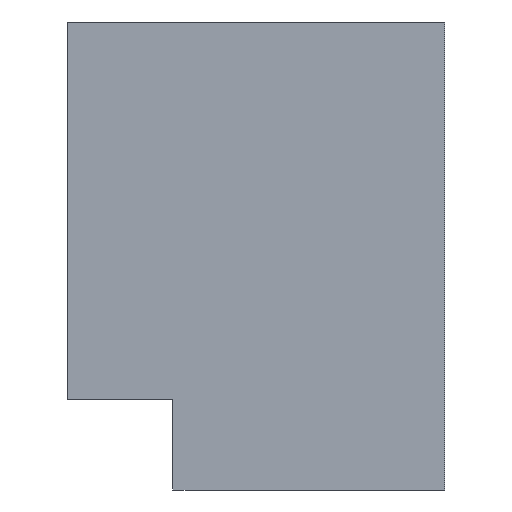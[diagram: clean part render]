
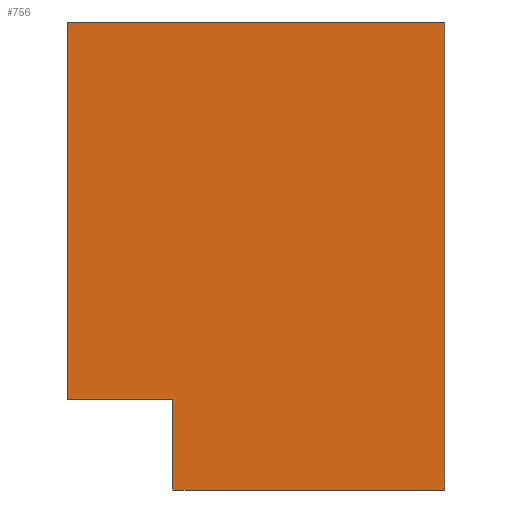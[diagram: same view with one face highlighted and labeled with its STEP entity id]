
A CAD part, left-side view. The second image highlights one B-rep face of the part: STEP entity #756.
In plain terms, the highlighted planar face has unit normal (1, 0, 0).
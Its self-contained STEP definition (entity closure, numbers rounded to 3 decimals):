
#701=CARTESIAN_POINT('Axis2P3D Location',(-62.5,0.,0.)) ;
#706=CARTESIAN_POINT('Line Origine',(-62.5,5.5,-28.)) ;
#710=CARTESIAN_POINT('Vertex',(-62.5,5.5,-31.)) ;
#712=CARTESIAN_POINT('Vertex',(-62.5,5.5,-25.)) ;
#715=CARTESIAN_POINT('Line Origine',(-62.5,9.,-25.)) ;
#719=CARTESIAN_POINT('Vertex',(-62.5,12.5,-25.)) ;
#722=CARTESIAN_POINT('Line Origine',(-62.5,12.5,-12.5)) ;
#726=CARTESIAN_POINT('Vertex',(-62.5,12.5,0.)) ;
#729=CARTESIAN_POINT('Line Origine',(-62.5,0.,0.)) ;
#733=CARTESIAN_POINT('Vertex',(-62.5,-12.5,0.)) ;
#736=CARTESIAN_POINT('Line Origine',(-62.5,-12.5,-15.5)) ;
#740=CARTESIAN_POINT('Vertex',(-62.5,-12.5,-31.)) ;
#743=CARTESIAN_POINT('Line Origine',(-62.5,-3.5,-31.)) ;
#702=DIRECTION('Axis2P3D Direction',(1.,0.,0.)) ;
#703=DIRECTION('Axis2P3D XDirection',(0.,1.,0.)) ;
#707=DIRECTION('Vector Direction',(0.,0.,1.)) ;
#716=DIRECTION('Vector Direction',(0.,1.,0.)) ;
#723=DIRECTION('Vector Direction',(0.,0.,1.)) ;
#730=DIRECTION('Vector Direction',(0.,-1.,0.)) ;
#737=DIRECTION('Vector Direction',(0.,0.,-1.)) ;
#744=DIRECTION('Vector Direction',(0.,1.,0.)) ;
#704=AXIS2_PLACEMENT_3D('Plane Axis2P3D',#701,#702,#703) ;
#749=ORIENTED_EDGE('',*,*,#714,.T.) ;
#750=ORIENTED_EDGE('',*,*,#721,.T.) ;
#751=ORIENTED_EDGE('',*,*,#728,.T.) ;
#752=ORIENTED_EDGE('',*,*,#735,.T.) ;
#753=ORIENTED_EDGE('',*,*,#742,.T.) ;
#754=ORIENTED_EDGE('',*,*,#747,.T.) ;
#708=VECTOR('Line Direction',#707,1.) ;
#717=VECTOR('Line Direction',#716,1.) ;
#724=VECTOR('Line Direction',#723,1.) ;
#731=VECTOR('Line Direction',#730,1.) ;
#738=VECTOR('Line Direction',#737,1.) ;
#745=VECTOR('Line Direction',#744,1.) ;
#756=ADVANCED_FACE('MANIFOLD_SOLID_BREP #3688',(#755),#705,.T.) ;
#714=EDGE_CURVE('',#711,#713,#709,.T.) ;
#721=EDGE_CURVE('',#713,#720,#718,.T.) ;
#728=EDGE_CURVE('',#720,#727,#725,.T.) ;
#735=EDGE_CURVE('',#727,#734,#732,.T.) ;
#742=EDGE_CURVE('',#734,#741,#739,.T.) ;
#747=EDGE_CURVE('',#741,#711,#746,.T.) ;
#748=EDGE_LOOP('',(#749,#750,#751,#752,#753,#754)) ;
#755=FACE_OUTER_BOUND('',#748,.T.) ;
#709=LINE('Line',#706,#708) ;
#718=LINE('Line',#715,#717) ;
#725=LINE('Line',#722,#724) ;
#732=LINE('Line',#729,#731) ;
#739=LINE('Line',#736,#738) ;
#746=LINE('Line',#743,#745) ;
#705=PLANE('Plane',#704) ;
#711=VERTEX_POINT('',#710) ;
#713=VERTEX_POINT('',#712) ;
#720=VERTEX_POINT('',#719) ;
#727=VERTEX_POINT('',#726) ;
#734=VERTEX_POINT('',#733) ;
#741=VERTEX_POINT('',#740) ;
